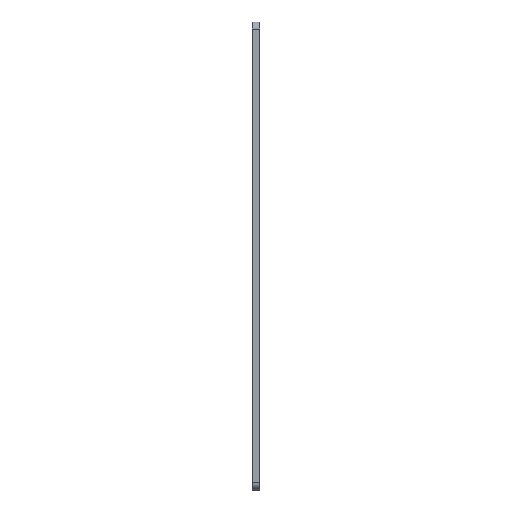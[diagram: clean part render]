
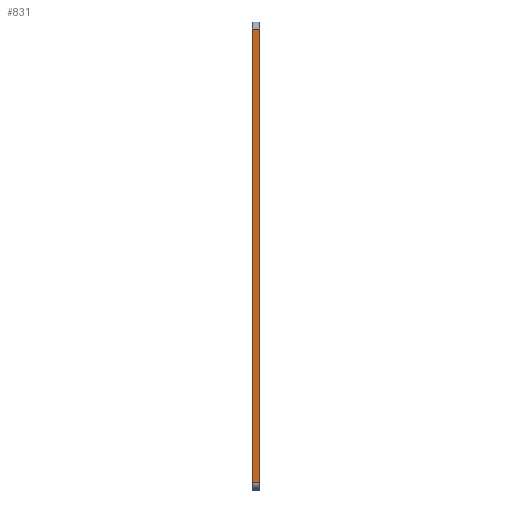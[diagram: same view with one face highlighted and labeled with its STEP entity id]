
A CAD part, left-side view. The second image highlights one B-rep face of the part: STEP entity #831.
In plain terms, the highlighted planar face has unit normal (-1, 0, 0).
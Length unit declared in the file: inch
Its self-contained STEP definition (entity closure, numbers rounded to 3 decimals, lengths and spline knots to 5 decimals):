
#57 = DIRECTION ( 'NONE',  ( 0., 0., 1. ) ) ;
#89 = VECTOR ( 'NONE', #1141, 39.37008 ) ;
#105 = CARTESIAN_POINT ( 'NONE',  ( 0., 0.125, 0. ) ) ;
#138 = CARTESIAN_POINT ( 'NONE',  ( 0., -0.125, 0.25 ) ) ;
#203 = EDGE_CURVE ( 'NONE', #513, #1563, #972, .T. ) ;
#283 = EDGE_CURVE ( 'NONE', #775, #1514, #1108, .T. ) ;
#361 = ORIENTED_EDGE ( 'NONE', *, *, #203, .T. ) ;
#462 = EDGE_CURVE ( 'NONE', #775, #513, #607, .T. ) ;
#473 = AXIS2_PLACEMENT_3D ( 'NONE', #105, #697, #1178 ) ;
#496 = ORIENTED_EDGE ( 'NONE', *, *, #1072, .T. ) ;
#513 = VERTEX_POINT ( 'NONE', #138 ) ;
#584 = PLANE ( 'NONE',  #473 ) ;
#589 = CARTESIAN_POINT ( 'NONE',  ( 0., -0.125, 0. ) ) ;
#607 = LINE ( 'NONE', #750, #1509 ) ;
#651 = ORIENTED_EDGE ( 'NONE', *, *, #462, .T. ) ;
#697 = DIRECTION ( 'NONE',  ( 1., 0., 0. ) ) ;
#750 = CARTESIAN_POINT ( 'NONE',  ( 0., 0.125, 0.25 ) ) ;
#753 = ORIENTED_EDGE ( 'NONE', *, *, #283, .F. ) ;
#775 = VERTEX_POINT ( 'NONE', #909 ) ;
#831 = ADVANCED_FACE ( 'NONE', ( #1300 ), #584, .F. ) ;
#851 = DIRECTION ( 'NONE',  ( 0., 0., 1. ) ) ;
#909 = CARTESIAN_POINT ( 'NONE',  ( 0., 0.125, 0.25 ) ) ;
#911 = VECTOR ( 'NONE', #57, 39.37008 ) ;
#972 = LINE ( 'NONE', #589, #1502 ) ;
#983 = CARTESIAN_POINT ( 'NONE',  ( 0., 0.125, 16.25 ) ) ;
#1005 = CARTESIAN_POINT ( 'NONE',  ( 0., 0.125, 0. ) ) ;
#1006 = CARTESIAN_POINT ( 'NONE',  ( 0., 0.125, 16.25 ) ) ;
#1072 = EDGE_CURVE ( 'NONE', #1563, #1514, #1355, .T. ) ;
#1108 = LINE ( 'NONE', #1005, #911 ) ;
#1141 = DIRECTION ( 'NONE',  ( 0., 1., 0. ) ) ;
#1178 = DIRECTION ( 'NONE',  ( 0., 0., -1. ) ) ;
#1228 = DIRECTION ( 'NONE',  ( 0., -1., 0. ) ) ;
#1300 = FACE_OUTER_BOUND ( 'NONE', #1367, .T. ) ;
#1355 = LINE ( 'NONE', #1006, #89 ) ;
#1367 = EDGE_LOOP ( 'NONE', ( #361, #496, #753, #651 ) ) ;
#1466 = CARTESIAN_POINT ( 'NONE',  ( 0., -0.125, 16.25 ) ) ;
#1502 = VECTOR ( 'NONE', #851, 39.37008 ) ;
#1509 = VECTOR ( 'NONE', #1228, 39.37008 ) ;
#1514 = VERTEX_POINT ( 'NONE', #983 ) ;
#1563 = VERTEX_POINT ( 'NONE', #1466 ) ;
